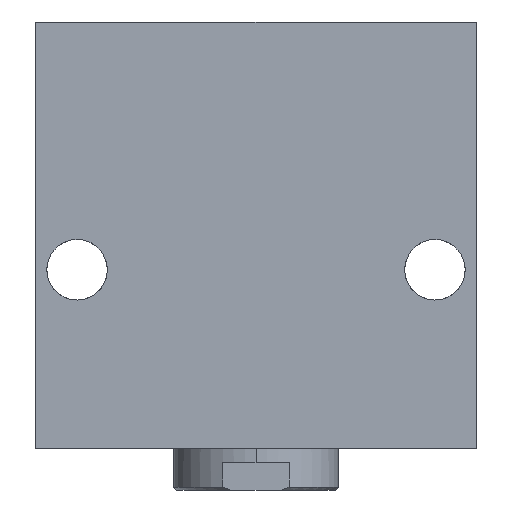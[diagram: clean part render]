
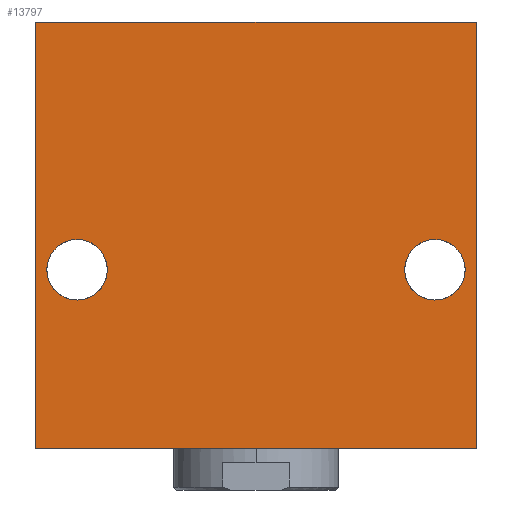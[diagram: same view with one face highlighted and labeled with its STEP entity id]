
A CAD part, front view. The second image highlights one B-rep face of the part: STEP entity #13797.
In plain terms, the highlighted planar face has unit normal (0, -1, 0).
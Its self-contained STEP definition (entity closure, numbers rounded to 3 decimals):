
#27 = VECTOR ( 'NONE', #7257, 1000. ) ;
#68 = ORIENTED_EDGE ( 'NONE', *, *, #383, .T. ) ;
#383 = EDGE_CURVE ( 'NONE', #12375, #11026, #4641, .T. ) ;
#387 = AXIS2_PLACEMENT_3D ( 'NONE', #13896, #6268, #15172 ) ;
#872 = CARTESIAN_POINT ( 'NONE',  ( 80., 0., -77.5 ) ) ;
#931 = ORIENTED_EDGE ( 'NONE', *, *, #13204, .F. ) ;
#979 = VECTOR ( 'NONE', #1101, 1000. ) ;
#981 = VERTEX_POINT ( 'NONE', #8654 ) ;
#1087 = CARTESIAN_POINT ( 'NONE',  ( 65., 0., -23.5 ) ) ;
#1089 = VERTEX_POINT ( 'NONE', #11399 ) ;
#1101 = DIRECTION ( 'NONE',  ( -1., 0., 0. ) ) ;
#1196 = AXIS2_PLACEMENT_3D ( 'NONE', #14161, #6565, #15460 ) ;
#1756 = VECTOR ( 'NONE', #9042, 1000. ) ;
#2015 = CARTESIAN_POINT ( 'NONE',  ( 80., 0., -77.5 ) ) ;
#2590 = VERTEX_POINT ( 'NONE', #8588 ) ;
#2822 = ORIENTED_EDGE ( 'NONE', *, *, #16563, .T. ) ;
#2839 = DIRECTION ( 'NONE',  ( 0., 0., 1. ) ) ;
#3115 = AXIS2_PLACEMENT_3D ( 'NONE', #3883, #13019, #5313 ) ;
#3193 = EDGE_CURVE ( 'NONE', #1089, #7614, #4143, .T. ) ;
#3468 = ORIENTED_EDGE ( 'NONE', *, *, #12380, .T. ) ;
#3713 = ORIENTED_EDGE ( 'NONE', *, *, #16649, .F. ) ;
#3883 = CARTESIAN_POINT ( 'NONE',  ( -65., 0., -12.5 ) ) ;
#4065 = EDGE_LOOP ( 'NONE', ( #12219, #931, #3713, #9930 ) ) ;
#4143 = LINE ( 'NONE', #7317, #27 ) ;
#4641 = CIRCLE ( 'NONE', #1196, 11. ) ;
#4685 = LINE ( 'NONE', #7807, #979 ) ;
#5313 = DIRECTION ( 'NONE',  ( 0., 0., 1. ) ) ;
#5398 = DIRECTION ( 'NONE',  ( 0., 1., 0. ) ) ;
#5500 = LINE ( 'NONE', #872, #1756 ) ;
#5699 = CARTESIAN_POINT ( 'NONE',  ( -80., 0., -77.5 ) ) ;
#5866 = PLANE ( 'NONE',  #10574 ) ;
#6150 = DIRECTION ( 'NONE',  ( 0., 1., 0. ) ) ;
#6268 = DIRECTION ( 'NONE',  ( 0., 1., 0. ) ) ;
#6565 = DIRECTION ( 'NONE',  ( 0., 1., 0. ) ) ;
#6638 = CIRCLE ( 'NONE', #9267, 11. ) ;
#6696 = CARTESIAN_POINT ( 'NONE',  ( 65., 0., -1.5 ) ) ;
#7257 = DIRECTION ( 'NONE',  ( 1., 0., 0. ) ) ;
#7317 = CARTESIAN_POINT ( 'NONE',  ( -80., 0., 77.5 ) ) ;
#7448 = ORIENTED_EDGE ( 'NONE', *, *, #11572, .T. ) ;
#7614 = VERTEX_POINT ( 'NONE', #13853 ) ;
#7807 = CARTESIAN_POINT ( 'NONE',  ( -80., 0., -77.5 ) ) ;
#8038 = FACE_BOUND ( 'NONE', #16535, .T. ) ;
#8588 = CARTESIAN_POINT ( 'NONE',  ( -80., 0., -77.5 ) ) ;
#8654 = CARTESIAN_POINT ( 'NONE',  ( -65., 0., -23.5 ) ) ;
#8905 = CARTESIAN_POINT ( 'NONE',  ( -65., 0., -1.5 ) ) ;
#9042 = DIRECTION ( 'NONE',  ( 0., 0., -1. ) ) ;
#9267 = AXIS2_PLACEMENT_3D ( 'NONE', #13098, #5398, #14333 ) ;
#9562 = EDGE_CURVE ( 'NONE', #2590, #1089, #13822, .T. ) ;
#9930 = ORIENTED_EDGE ( 'NONE', *, *, #3193, .F. ) ;
#10574 = AXIS2_PLACEMENT_3D ( 'NONE', #14775, #6150, #15062 ) ;
#10888 = CIRCLE ( 'NONE', #3115, 11. ) ;
#11026 = VERTEX_POINT ( 'NONE', #6696 ) ;
#11058 = FACE_BOUND ( 'NONE', #12362, .T. ) ;
#11399 = CARTESIAN_POINT ( 'NONE',  ( -80., 0., 77.5 ) ) ;
#11572 = EDGE_CURVE ( 'NONE', #11026, #12375, #6638, .T. ) ;
#12219 = ORIENTED_EDGE ( 'NONE', *, *, #9562, .F. ) ;
#12362 = EDGE_LOOP ( 'NONE', ( #3468, #2822 ) ) ;
#12366 = CIRCLE ( 'NONE', #387, 11. ) ;
#12375 = VERTEX_POINT ( 'NONE', #1087 ) ;
#12380 = EDGE_CURVE ( 'NONE', #14219, #981, #10888, .T. ) ;
#12673 = VECTOR ( 'NONE', #2839, 1000. ) ;
#13019 = DIRECTION ( 'NONE',  ( 0., 1., 0. ) ) ;
#13098 = CARTESIAN_POINT ( 'NONE',  ( 65., 0., -12.5 ) ) ;
#13204 = EDGE_CURVE ( 'NONE', #14698, #2590, #4685, .T. ) ;
#13797 = ADVANCED_FACE ( 'NONE', ( #11058, #8038, #14343 ), #5866, .F. ) ;
#13822 = LINE ( 'NONE', #5699, #12673 ) ;
#13853 = CARTESIAN_POINT ( 'NONE',  ( 80., 0., 77.5 ) ) ;
#13896 = CARTESIAN_POINT ( 'NONE',  ( -65., 0., -12.5 ) ) ;
#14161 = CARTESIAN_POINT ( 'NONE',  ( 65., 0., -12.5 ) ) ;
#14219 = VERTEX_POINT ( 'NONE', #8905 ) ;
#14333 = DIRECTION ( 'NONE',  ( 0., 0., 1. ) ) ;
#14343 = FACE_OUTER_BOUND ( 'NONE', #4065, .T. ) ;
#14698 = VERTEX_POINT ( 'NONE', #2015 ) ;
#14775 = CARTESIAN_POINT ( 'NONE',  ( 0., 0., 0. ) ) ;
#15062 = DIRECTION ( 'NONE',  ( 0., 0., 1. ) ) ;
#15172 = DIRECTION ( 'NONE',  ( 0., 0., 1. ) ) ;
#15460 = DIRECTION ( 'NONE',  ( 0., 0., 1. ) ) ;
#16535 = EDGE_LOOP ( 'NONE', ( #7448, #68 ) ) ;
#16563 = EDGE_CURVE ( 'NONE', #981, #14219, #12366, .T. ) ;
#16649 = EDGE_CURVE ( 'NONE', #7614, #14698, #5500, .T. ) ;
